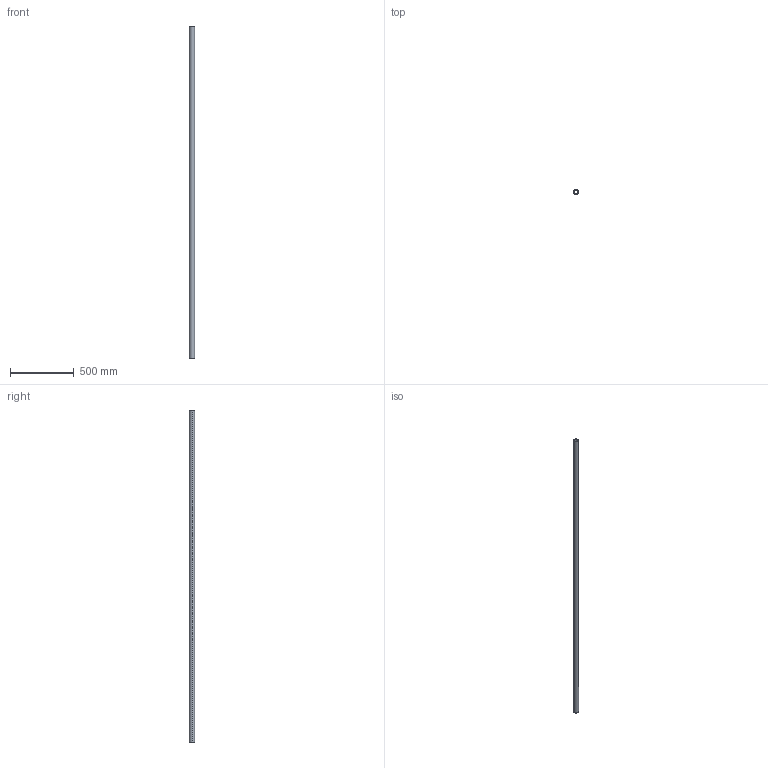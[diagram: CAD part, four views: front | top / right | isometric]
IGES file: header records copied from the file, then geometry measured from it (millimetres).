
Start section: SolidWorks IGES file using analytic representation for surfaces
Global section: file name: C:\Users\IanO\Desktop\L1771_v2\L1771.40_v2\L1771.40_v2_20230705_IGES\L1771.40-2600.igs; native system: SolidWorks 2019; preprocessor: SolidWorks 2019; author: IanO; date: 230705.161342; units: millimetre
Bounding box: 40 x 40 x 2600 mm (x, y, z)
Surface area: 556715.4 mm2 (no closed solid volume)
Topology: 0 solids, 0 shells, 6 faces, 272 edges, 272 vertices
Faces by surface type: revolution 4, bspline 2
